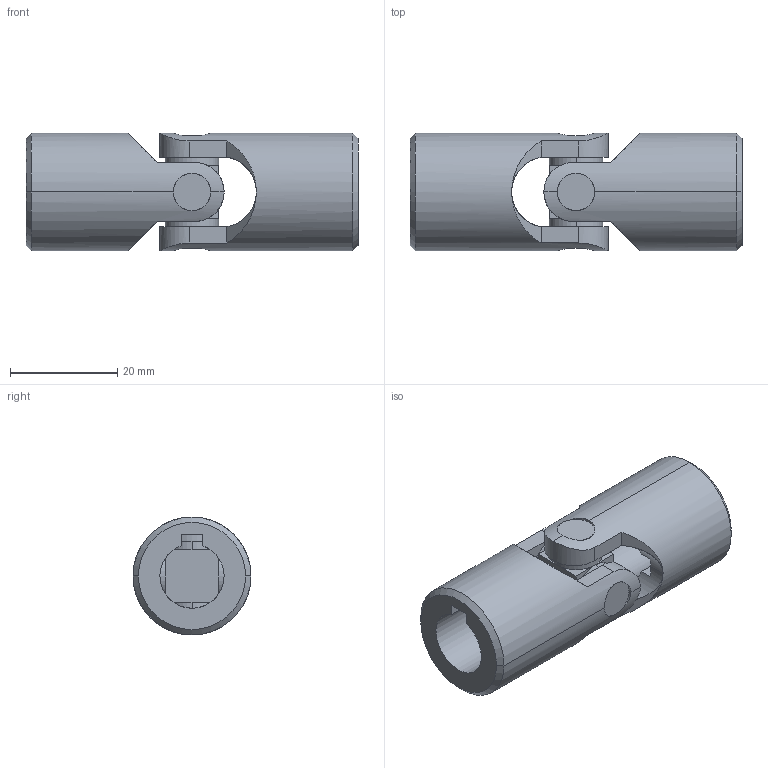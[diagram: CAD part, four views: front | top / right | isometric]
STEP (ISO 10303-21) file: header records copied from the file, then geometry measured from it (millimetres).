
FILE_DESCRIPTION (( 'STEP AP214' ), '1' );
FILE_NAME ('808-22-K12-62-EW.step', '2025-05-21T05:37:17', ( '' ), ( '' ), 'SwSTEP 2.0', 'SolidWorks 2022', '' );
FILE_SCHEMA (( 'AUTOMOTIVE_DESIGN' ));
Length unit declared in the file: millimetre
Products named in the file (3): WB808.2_Nabe^WB808_22-31-K12; WB808.2_Kreuzgelenk^WB808_22; 808-22-K12-62-EW
Assembly tree (3 placements, depth 2):
  808-22-K12-62-EW
    WB808.2_Nabe^WB808_22-31-K12  x2
    WB808.2_Kreuzgelenk^WB808_22
Bounding box: 62 x 22 x 22 mm (x, y, z)
Volume: 14880.9 mm3; surface area: 8369.9 mm2
Topology: 3 solids, 3 shells, 96 faces, 228 edges, 136 vertices
Faces by surface type: plane 54, cylinder 38, cone 4
Entity records: 2277 total; most frequent: CARTESIAN_POINT 641, DIRECTION 335, ORIENTED_EDGE 308, EDGE_CURVE 154, AXIS2_PLACEMENT_3D 128, VERTEX_POINT 90, LINE 79, VECTOR 79
